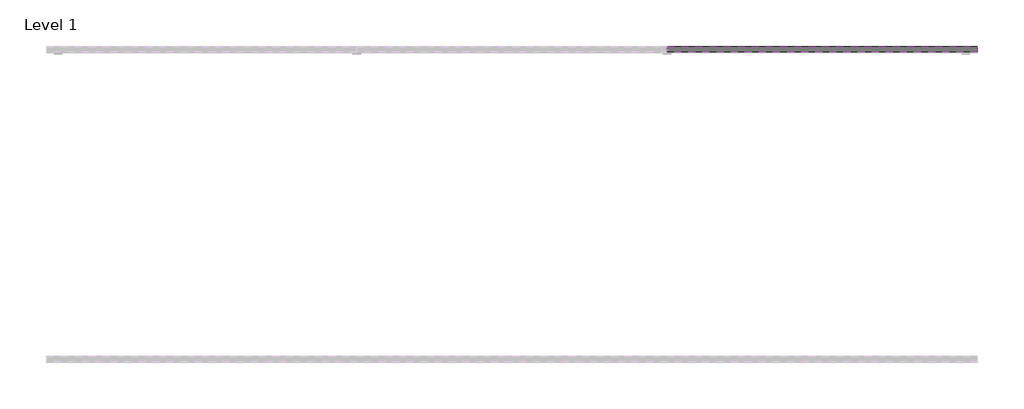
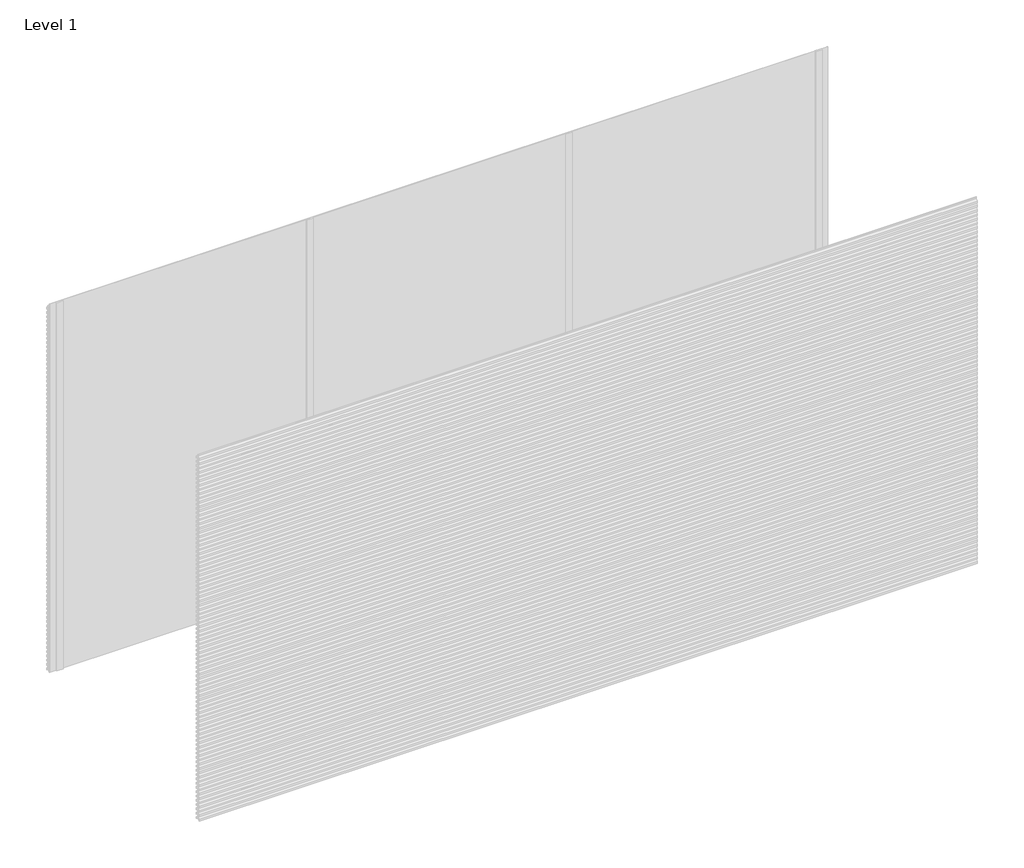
# One storey, part 17 of 17: 88 proxies.
"""IFC4 building model written with IfcOpenShell, lengths in millimetres."""

import ifcopenshell
import ifcopenshell.guid

model = None  # the IFC model being written
_history = None  # IfcOwnerHistory: only IFC2X3 demands one
_inside = {}  # id of a spatial element -> (the spatial element, [elements in it])
_under = {}  # id of a project, library or spatial element -> (it, [spatial elements below it])
_declared = {}  # id of a project -> (the project, [libraries it declares])
_typed = {}  # id of a type object -> (the type object, [elements of that type])
_made_of = {}  # id of a material, layer set ... -> (it, [elements and type objects made of it])


def new_model(schema):
    """Start an empty IFC model of exactly this schema.

    Asked for "IFC4X3", IfcOpenShell would pick the latest addendum, in which some entities
    have other attributes; the version numbers below select the first issue.
    IFC2X3 requires an IfcOwnerHistory on every rooted entity: one is made here for all.
    """
    global model, _history
    if schema == "IFC4X3":
        model = ifcopenshell.file(schema_version=(4, 3, 0, 0))
    else:
        model = ifcopenshell.file(schema=schema)
    _inside.clear()
    _under.clear()
    _declared.clear()
    _typed.clear()
    _made_of.clear()
    _history = None
    if model.schema == "IFC2X3":
        org = make("IfcOrganization", Name="unknown")
        user = make(
            "IfcPersonAndOrganization",
            ThePerson=make("IfcPerson", FamilyName="unknown"),
            TheOrganization=org,
        )
        app = make(
            "IfcApplication",
            ApplicationDeveloper=org,
            Version="unknown",
            ApplicationFullName="unknown",
            ApplicationIdentifier="unknown",
        )
        _history = make(
            "IfcOwnerHistory",
            OwningUser=user,
            OwningApplication=app,
            ChangeAction="ADDED",
            CreationDate=0,
        )
    return model


def make(cls, **values):
    """One entity of the class cls with the attributes given. An attribute that is None is left unset."""
    return model.create_entity(
        cls, **{name: value for name, value in values.items() if value is not None}
    )


def rooted(cls, **values):
    """An entity with a GlobalId (a new one), such as an element, a storey or a relation."""
    return make(cls, GlobalId=ifcopenshell.guid.new(), OwnerHistory=_history, **values)


def si_unit(unit_type, name, prefix=None):
    """IfcSIUnit, for example si_unit("LENGTHUNIT", "METRE", prefix="MILLI")."""
    return make("IfcSIUnit", UnitType=unit_type, Prefix=prefix, Name=name)


def assignment(units):
    """IfcUnitAssignment: the units of a project."""
    return None if units is None else make("IfcUnitAssignment", Units=units)


def point(xyz):
    """IfcCartesianPoint."""
    return None if xyz is None else make("IfcCartesianPoint", Coordinates=xyz)


def direction(xyz):
    """IfcDirection."""
    return None if xyz is None else make("IfcDirection", DirectionRatios=xyz)


def frame(location, z_axis=None, x_axis=None):
    """IfcAxis2Placement3D, a coordinate frame: its origin and axes. An axis left out is left unset."""
    return make(
        "IfcAxis2Placement3D",
        Location=point(location),
        Axis=direction(z_axis),
        RefDirection=direction(x_axis),
    )


def origin():
    """The frame at (0, 0, 0) with its axes left unset."""
    return frame((0.0, 0.0, 0.0))


def place(relative_to, where):
    """IfcLocalPlacement: puts the frame where relative to a parent placement (None: the world)."""
    return make(
        "IfcLocalPlacement", PlacementRelTo=relative_to, RelativePlacement=where
    )


def context(
    kind, dimensions, precision=None, world=None, true_north=None, identifier=None
):
    """IfcGeometricRepresentationContext, for example the 3D "Model" context."""
    return make(
        "IfcGeometricRepresentationContext",
        ContextIdentifier=identifier,
        ContextType=kind,
        CoordinateSpaceDimension=dimensions,
        Precision=precision,
        WorldCoordinateSystem=world,
        TrueNorth=true_north,
    )


def project(units=None, contexts=None):
    """IfcProject with its units and contexts."""
    return rooted(
        "IfcProject",
        Name="project",
        RepresentationContexts=contexts,
        UnitsInContext=assignment(units),
    )


def spatial(cls, under=None, at=None, **own):
    """A site, building, storey or space (cls), placed at a placement, below another one or the project."""
    s = rooted(cls, ObjectPlacement=at, **own)
    if under is not None:
        _under.setdefault(under.id(), (under, []))[1].append(s)
    return s


def polyline(points):
    """IfcPolyline through the points."""
    return make("IfcPolyline", Points=[point(p) for p in points])


def outline(outer, holes=None, kind="AREA"):
    """IfcArbitraryClosedProfileDef: a profile drawn as a closed curve; with holes, ...WithVoids."""
    if holes is None:
        return make("IfcArbitraryClosedProfileDef", ProfileType=kind, OuterCurve=outer)
    return make(
        "IfcArbitraryProfileDefWithVoids",
        ProfileType=kind,
        OuterCurve=outer,
        InnerCurves=holes,
    )


def extrude(swept, where, along, depth):
    """IfcExtrudedAreaSolid: the profile swept, set in the frame where, extruded along a direction by depth."""
    return make(
        "IfcExtrudedAreaSolid",
        SweptArea=swept,
        Position=where,
        ExtrudedDirection=direction(along),
        Depth=depth,
    )


def shape(context_of_items, identifier, shape_type, items):
    """IfcShapeRepresentation: the items that make up one representation, for example the "Body"."""
    return make(
        "IfcShapeRepresentation",
        ContextOfItems=context_of_items,
        RepresentationIdentifier=identifier,
        RepresentationType=shape_type,
        Items=items,
    )


def made_of(thing, what):
    """Note that an element or type object is made of a material, layer set ...; save() writes the relation."""
    if what is not None:
        _made_of.setdefault(what.id(), (what, []))[1].append(thing)
    return thing


def element(
    cls,
    number,
    at=None,
    inside=None,
    cuts=None,
    type_object=None,
    material=None,
    context=None,
    identifier="Body",
    shape_type=None,
    held_by="IfcProductDefinitionShape",
    body=None,
    shapes=None,
    **own,
):
    """One element of the class cls, such as IfcWall. Its Tag is "e" and its number.

    at: its placement. inside: the storey or other place that contains it. cuts: it is an
    opening in that element (IfcRelVoidsElement). A single representation is given by context,
    identifier, shape_type and body (its items); several are given by shapes. held_by: the class
    of the entity that holds the representations. save() writes the other relations.
    """
    e = rooted(cls, Tag="e%d" % number, ObjectPlacement=at, **own)
    if body is not None:
        shapes = [shape(context, identifier, shape_type, body)]
    if shapes is not None:
        e.Representation = make(held_by, Representations=shapes)
    if inside is not None:
        _inside.setdefault(inside.id(), (inside, []))[1].append(e)
    if cuts is not None:
        rooted(
            "IfcRelVoidsElement", RelatingBuildingElement=cuts, RelatedOpeningElement=e
        )
    if type_object is not None:
        _typed.setdefault(type_object.id(), (type_object, []))[1].append(e)
    return made_of(e, material)


def aggregate(whole, parts):
    """IfcRelAggregates: a whole, such as a stair, and the parts it consists of."""
    return rooted("IfcRelAggregates", RelatingObject=whole, RelatedObjects=parts)


def save(model, path):
    """Write the relations noted so far, then the file.

    IfcRelAggregates (storeys below a building ...), IfcRelContainedInSpatialStructure (elements
    in a storey), IfcRelDefinesByType, IfcRelAssociatesMaterial and IfcRelDeclares: one each for
    every whole, place, type object, material and project.
    """
    for whole, parts in _under.values():
        aggregate(whole, parts)
    for where, things in _inside.values():
        rooted(
            "IfcRelContainedInSpatialStructure",
            RelatedElements=things,
            RelatingStructure=where,
        )
    for kind, things in _typed.values():
        rooted("IfcRelDefinesByType", RelatedObjects=things, RelatingType=kind)
    for what, things in _made_of.values():
        rooted("IfcRelAssociatesMaterial", RelatedObjects=things, RelatingMaterial=what)
    for by, libraries in _declared.values():
        rooted("IfcRelDeclares", RelatingContext=by, RelatedDefinitions=libraries)
    model.write(path)


model = new_model("IFC4")

# Units and contexts
model_context = context("Model", 3, world=origin())
ifc_project = project(units=[si_unit("LENGTHUNIT", "METRE", prefix="MILLI")], contexts=[model_context])

# Site, building, storey
site = spatial("IfcSite", under=ifc_project)
building = spatial("IfcBuilding", under=site)
storey = spatial("IfcBuildingStorey", under=building, Name="Level 1", Elevation=0.0)

# Proxies
placement = place(None, origin())
element("IfcBuildingElementProxy", 1, Name="Wall Sweeps", at=placement, inside=storey, context=model_context, shape_type="SweptSolid", body=[
    extrude(outline(polyline([(39.0, 81.5), (39.0, 66.5), (21.0, 78.6411533), (3.0, 66.5), (3.0, 81.5), (20.0, 92.9666448), (20.0, 105.0), (22.0, 105.0), (22.0, 92.9666448), (39.0, 81.5)])), frame((2000.0, 0.0, 0.0), z_axis=(1.0, 0.0, 0.0), x_axis=(0.0, 1.0, 0.0)), (0.0, 0.0, 1.0), 2000.0),
])
element("IfcBuildingElementProxy", 2, Name="Wall Sweeps", at=placement, inside=storey, context=model_context, shape_type="SweptSolid", body=[
    extrude(outline(polyline([(39.0, 46.5), (39.0, 31.5), (21.0, 43.6411533), (3.0, 31.5), (3.0, 46.5), (20.0, 57.9666448), (20.0, 70.0), (22.0, 70.0), (22.0, 57.9666448), (39.0, 46.5)])), frame((2000.0, 0.0, 0.0), z_axis=(1.0, 0.0, 0.0), x_axis=(0.0, 1.0, 0.0)), (0.0, 0.0, 1.0), 2000.0),
])
element("IfcBuildingElementProxy", 3, Name="Wall Sweeps", at=placement, inside=storey, context=model_context, shape_type="SweptSolid", body=[
    extrude(outline(polyline([(39.0, 11.5), (39.0, -3.5), (21.0, 8.6411533), (3.0, -3.5), (3.0, 11.5), (20.0, 22.9666448), (20.0, 35.0), (22.0, 35.0), (22.0, 22.9666448), (39.0, 11.5)])), frame((2000.0, 0.0, 0.0), z_axis=(1.0, 0.0, 0.0), x_axis=(0.0, 1.0, 0.0)), (0.0, 0.0, 1.0), 2000.0),
])
element("IfcBuildingElementProxy", 4, Name="Wall Sweeps", at=placement, inside=storey, context=model_context, shape_type="SweptSolid", body=[
    extrude(outline(polyline([(39.0, 2951.5), (39.0, 2936.5), (21.0, 2948.6411533), (3.0, 2936.5), (3.0, 2951.5), (20.0, 2962.9666448), (20.0, 2975.0), (22.0, 2975.0), (22.0, 2962.9666448), (39.0, 2951.5)])), frame((4000.0, 0.0, 0.0), z_axis=(1.0, 0.0, 0.0), x_axis=(0.0, 1.0, 0.0)), (0.0, 0.0, 1.0), 2000.0),
])
element("IfcBuildingElementProxy", 5, Name="Wall Sweeps", at=placement, inside=storey, context=model_context, shape_type="SweptSolid", body=[
    extrude(outline(polyline([(39.0, 2916.5), (39.0, 2901.5), (21.0, 2913.6411533), (3.0, 2901.5), (3.0, 2916.5), (20.0, 2927.9666448), (20.0, 2940.0), (22.0, 2940.0), (22.0, 2927.9666448), (39.0, 2916.5)])), frame((4000.0, 0.0, 0.0), z_axis=(1.0, 0.0, 0.0), x_axis=(0.0, 1.0, 0.0)), (0.0, 0.0, 1.0), 2000.0),
])
element("IfcBuildingElementProxy", 6, Name="Wall Sweeps", at=placement, inside=storey, context=model_context, shape_type="SweptSolid", body=[
    extrude(outline(polyline([(39.0, 2881.5), (39.0, 2866.5), (21.0, 2878.6411533), (3.0, 2866.5), (3.0, 2881.5), (20.0, 2892.9666448), (20.0, 2905.0), (22.0, 2905.0), (22.0, 2892.9666448), (39.0, 2881.5)])), frame((4000.0, 0.0, 0.0), z_axis=(1.0, 0.0, 0.0), x_axis=(0.0, 1.0, 0.0)), (0.0, 0.0, 1.0), 2000.0),
])
element("IfcBuildingElementProxy", 7, Name="Wall Sweeps", at=placement, inside=storey, context=model_context, shape_type="SweptSolid", body=[
    extrude(outline(polyline([(39.0, 2846.5), (39.0, 2831.5), (21.0, 2843.6411533), (3.0, 2831.5), (3.0, 2846.5), (20.0, 2857.9666448), (20.0, 2870.0), (22.0, 2870.0), (22.0, 2857.9666448), (39.0, 2846.5)])), frame((4000.0, 0.0, 0.0), z_axis=(1.0, 0.0, 0.0), x_axis=(0.0, 1.0, 0.0)), (0.0, 0.0, 1.0), 2000.0),
])
element("IfcBuildingElementProxy", 8, Name="Wall Sweeps", at=placement, inside=storey, context=model_context, shape_type="SweptSolid", body=[
    extrude(outline(polyline([(39.0, 2811.5), (39.0, 2796.5), (21.0, 2808.6411533), (3.0, 2796.5), (3.0, 2811.5), (20.0, 2822.9666448), (20.0, 2835.0), (22.0, 2835.0), (22.0, 2822.9666448), (39.0, 2811.5)])), frame((4000.0, 0.0, 0.0), z_axis=(1.0, 0.0, 0.0), x_axis=(0.0, 1.0, 0.0)), (0.0, 0.0, 1.0), 2000.0),
])
element("IfcBuildingElementProxy", 9, Name="Wall Sweeps", at=placement, inside=storey, context=model_context, shape_type="SweptSolid", body=[
    extrude(outline(polyline([(39.0, 2776.5), (39.0, 2761.5), (21.0, 2773.6411533), (3.0, 2761.5), (3.0, 2776.5), (20.0, 2787.9666448), (20.0, 2800.0), (22.0, 2800.0), (22.0, 2787.9666448), (39.0, 2776.5)])), frame((4000.0, 0.0, 0.0), z_axis=(1.0, 0.0, 0.0), x_axis=(0.0, 1.0, 0.0)), (0.0, 0.0, 1.0), 2000.0),
])
element("IfcBuildingElementProxy", 10, Name="Wall Sweeps", at=placement, inside=storey, context=model_context, shape_type="SweptSolid", body=[
    extrude(outline(polyline([(39.0, 2741.5), (39.0, 2726.5), (21.0, 2738.6411533), (3.0, 2726.5), (3.0, 2741.5), (20.0, 2752.9666448), (20.0, 2765.0), (22.0, 2765.0), (22.0, 2752.9666448), (39.0, 2741.5)])), frame((4000.0, 0.0, 0.0), z_axis=(1.0, 0.0, 0.0), x_axis=(0.0, 1.0, 0.0)), (0.0, 0.0, 1.0), 2000.0),
])
element("IfcBuildingElementProxy", 11, Name="Wall Sweeps", at=placement, inside=storey, context=model_context, shape_type="SweptSolid", body=[
    extrude(outline(polyline([(39.0, 2706.5), (39.0, 2691.5), (21.0, 2703.6411533), (3.0, 2691.5), (3.0, 2706.5), (20.0, 2717.9666448), (20.0, 2730.0), (22.0, 2730.0), (22.0, 2717.9666448), (39.0, 2706.5)])), frame((4000.0, 0.0, 0.0), z_axis=(1.0, 0.0, 0.0), x_axis=(0.0, 1.0, 0.0)), (0.0, 0.0, 1.0), 2000.0),
])
element("IfcBuildingElementProxy", 12, Name="Wall Sweeps", at=placement, inside=storey, context=model_context, shape_type="SweptSolid", body=[
    extrude(outline(polyline([(39.0, 2671.5), (39.0, 2656.5), (21.0, 2668.6411533), (3.0, 2656.5), (3.0, 2671.5), (20.0, 2682.9666448), (20.0, 2695.0), (22.0, 2695.0), (22.0, 2682.9666448), (39.0, 2671.5)])), frame((4000.0, 0.0, 0.0), z_axis=(1.0, 0.0, 0.0), x_axis=(0.0, 1.0, 0.0)), (0.0, 0.0, 1.0), 2000.0),
])
element("IfcBuildingElementProxy", 13, Name="Wall Sweeps", at=placement, inside=storey, context=model_context, shape_type="SweptSolid", body=[
    extrude(outline(polyline([(39.0, 2636.5), (39.0, 2621.5), (21.0, 2633.6411533), (3.0, 2621.5), (3.0, 2636.5), (20.0, 2647.9666448), (20.0, 2660.0), (22.0, 2660.0), (22.0, 2647.9666448), (39.0, 2636.5)])), frame((4000.0, 0.0, 0.0), z_axis=(1.0, 0.0, 0.0), x_axis=(0.0, 1.0, 0.0)), (0.0, 0.0, 1.0), 2000.0),
])
element("IfcBuildingElementProxy", 14, Name="Wall Sweeps", at=placement, inside=storey, context=model_context, shape_type="SweptSolid", body=[
    extrude(outline(polyline([(39.0, 2601.5), (39.0, 2586.5), (21.0, 2598.6411533), (3.0, 2586.5), (3.0, 2601.5), (20.0, 2612.9666448), (20.0, 2625.0), (22.0, 2625.0), (22.0, 2612.9666448), (39.0, 2601.5)])), frame((4000.0, 0.0, 0.0), z_axis=(1.0, 0.0, 0.0), x_axis=(0.0, 1.0, 0.0)), (0.0, 0.0, 1.0), 2000.0),
])
element("IfcBuildingElementProxy", 15, Name="Wall Sweeps", at=placement, inside=storey, context=model_context, shape_type="SweptSolid", body=[
    extrude(outline(polyline([(39.0, 2566.5), (39.0, 2551.5), (21.0, 2563.6411533), (3.0, 2551.5), (3.0, 2566.5), (20.0, 2577.9666448), (20.0, 2590.0), (22.0, 2590.0), (22.0, 2577.9666448), (39.0, 2566.5)])), frame((4000.0, 0.0, 0.0), z_axis=(1.0, 0.0, 0.0), x_axis=(0.0, 1.0, 0.0)), (0.0, 0.0, 1.0), 2000.0),
])
element("IfcBuildingElementProxy", 16, Name="Wall Sweeps", at=placement, inside=storey, context=model_context, shape_type="SweptSolid", body=[
    extrude(outline(polyline([(39.0, 2531.5), (39.0, 2516.5), (21.0, 2528.6411533), (3.0, 2516.5), (3.0, 2531.5), (20.0, 2542.9666448), (20.0, 2555.0), (22.0, 2555.0), (22.0, 2542.9666448), (39.0, 2531.5)])), frame((4000.0, 0.0, 0.0), z_axis=(1.0, 0.0, 0.0), x_axis=(0.0, 1.0, 0.0)), (0.0, 0.0, 1.0), 2000.0),
])
element("IfcBuildingElementProxy", 17, Name="Wall Sweeps", at=placement, inside=storey, context=model_context, shape_type="SweptSolid", body=[
    extrude(outline(polyline([(39.0, 2496.5), (39.0, 2481.5), (21.0, 2493.6411533), (3.0, 2481.5), (3.0, 2496.5), (20.0, 2507.9666448), (20.0, 2520.0), (22.0, 2520.0), (22.0, 2507.9666448), (39.0, 2496.5)])), frame((4000.0, 0.0, 0.0), z_axis=(1.0, 0.0, 0.0), x_axis=(0.0, 1.0, 0.0)), (0.0, 0.0, 1.0), 2000.0),
])
element("IfcBuildingElementProxy", 18, Name="Wall Sweeps", at=placement, inside=storey, context=model_context, shape_type="SweptSolid", body=[
    extrude(outline(polyline([(39.0, 2461.5), (39.0, 2446.5), (21.0, 2458.6411533), (3.0, 2446.5), (3.0, 2461.5), (20.0, 2472.9666448), (20.0, 2485.0), (22.0, 2485.0), (22.0, 2472.9666448), (39.0, 2461.5)])), frame((4000.0, 0.0, 0.0), z_axis=(1.0, 0.0, 0.0), x_axis=(0.0, 1.0, 0.0)), (0.0, 0.0, 1.0), 2000.0),
])
element("IfcBuildingElementProxy", 19, Name="Wall Sweeps", at=placement, inside=storey, context=model_context, shape_type="SweptSolid", body=[
    extrude(outline(polyline([(39.0, 2426.5), (39.0, 2411.5), (21.0, 2423.6411533), (3.0, 2411.5), (3.0, 2426.5), (20.0, 2437.9666448), (20.0, 2450.0), (22.0, 2450.0), (22.0, 2437.9666448), (39.0, 2426.5)])), frame((4000.0, 0.0, 0.0), z_axis=(1.0, 0.0, 0.0), x_axis=(0.0, 1.0, 0.0)), (0.0, 0.0, 1.0), 2000.0),
])
element("IfcBuildingElementProxy", 20, Name="Wall Sweeps", at=placement, inside=storey, context=model_context, shape_type="SweptSolid", body=[
    extrude(outline(polyline([(39.0, 2391.5), (39.0, 2376.5), (21.0, 2388.6411533), (3.0, 2376.5), (3.0, 2391.5), (20.0, 2402.9666448), (20.0, 2415.0), (22.0, 2415.0), (22.0, 2402.9666448), (39.0, 2391.5)])), frame((4000.0, 0.0, 0.0), z_axis=(1.0, 0.0, 0.0), x_axis=(0.0, 1.0, 0.0)), (0.0, 0.0, 1.0), 2000.0),
])
element("IfcBuildingElementProxy", 21, Name="Wall Sweeps", at=placement, inside=storey, context=model_context, shape_type="SweptSolid", body=[
    extrude(outline(polyline([(39.0, 2356.5), (39.0, 2341.5), (21.0, 2353.6411533), (3.0, 2341.5), (3.0, 2356.5), (20.0, 2367.9666448), (20.0, 2380.0), (22.0, 2380.0), (22.0, 2367.9666448), (39.0, 2356.5)])), frame((4000.0, 0.0, 0.0), z_axis=(1.0, 0.0, 0.0), x_axis=(0.0, 1.0, 0.0)), (0.0, 0.0, 1.0), 2000.0),
])
element("IfcBuildingElementProxy", 22, Name="Wall Sweeps", at=placement, inside=storey, context=model_context, shape_type="SweptSolid", body=[
    extrude(outline(polyline([(39.0, 2321.5), (39.0, 2306.5), (21.0, 2318.6411533), (3.0, 2306.5), (3.0, 2321.5), (20.0, 2332.9666448), (20.0, 2345.0), (22.0, 2345.0), (22.0, 2332.9666448), (39.0, 2321.5)])), frame((4000.0, 0.0, 0.0), z_axis=(1.0, 0.0, 0.0), x_axis=(0.0, 1.0, 0.0)), (0.0, 0.0, 1.0), 2000.0),
])
element("IfcBuildingElementProxy", 23, Name="Wall Sweeps", at=placement, inside=storey, context=model_context, shape_type="SweptSolid", body=[
    extrude(outline(polyline([(39.0, 2286.5), (39.0, 2271.5), (21.0, 2283.6411533), (3.0, 2271.5), (3.0, 2286.5), (20.0, 2297.9666448), (20.0, 2310.0), (22.0, 2310.0), (22.0, 2297.9666448), (39.0, 2286.5)])), frame((4000.0, 0.0, 0.0), z_axis=(1.0, 0.0, 0.0), x_axis=(0.0, 1.0, 0.0)), (0.0, 0.0, 1.0), 2000.0),
])
element("IfcBuildingElementProxy", 24, Name="Wall Sweeps", at=placement, inside=storey, context=model_context, shape_type="SweptSolid", body=[
    extrude(outline(polyline([(39.0, 2251.5), (39.0, 2236.5), (21.0, 2248.6411533), (3.0, 2236.5), (3.0, 2251.5), (20.0, 2262.9666448), (20.0, 2275.0), (22.0, 2275.0), (22.0, 2262.9666448), (39.0, 2251.5)])), frame((4000.0, 0.0, 0.0), z_axis=(1.0, 0.0, 0.0), x_axis=(0.0, 1.0, 0.0)), (0.0, 0.0, 1.0), 2000.0),
])
element("IfcBuildingElementProxy", 25, Name="Wall Sweeps", at=placement, inside=storey, context=model_context, shape_type="SweptSolid", body=[
    extrude(outline(polyline([(39.0, 2216.5), (39.0, 2201.5), (21.0, 2213.6411533), (3.0, 2201.5), (3.0, 2216.5), (20.0, 2227.9666448), (20.0, 2240.0), (22.0, 2240.0), (22.0, 2227.9666448), (39.0, 2216.5)])), frame((4000.0, 0.0, 0.0), z_axis=(1.0, 0.0, 0.0), x_axis=(0.0, 1.0, 0.0)), (0.0, 0.0, 1.0), 2000.0),
])
element("IfcBuildingElementProxy", 26, Name="Wall Sweeps", at=placement, inside=storey, context=model_context, shape_type="SweptSolid", body=[
    extrude(outline(polyline([(39.0, 2181.5), (39.0, 2166.5), (21.0, 2178.6411533), (3.0, 2166.5), (3.0, 2181.5), (20.0, 2192.9666448), (20.0, 2205.0), (22.0, 2205.0), (22.0, 2192.9666448), (39.0, 2181.5)])), frame((4000.0, 0.0, 0.0), z_axis=(1.0, 0.0, 0.0), x_axis=(0.0, 1.0, 0.0)), (0.0, 0.0, 1.0), 2000.0),
])
element("IfcBuildingElementProxy", 27, Name="Wall Sweeps", at=placement, inside=storey, context=model_context, shape_type="SweptSolid", body=[
    extrude(outline(polyline([(39.0, 2146.5), (39.0, 2131.5), (21.0, 2143.6411533), (3.0, 2131.5), (3.0, 2146.5), (20.0, 2157.9666448), (20.0, 2170.0), (22.0, 2170.0), (22.0, 2157.9666448), (39.0, 2146.5)])), frame((4000.0, 0.0, 0.0), z_axis=(1.0, 0.0, 0.0), x_axis=(0.0, 1.0, 0.0)), (0.0, 0.0, 1.0), 2000.0),
])
element("IfcBuildingElementProxy", 28, Name="Wall Sweeps", at=placement, inside=storey, context=model_context, shape_type="SweptSolid", body=[
    extrude(outline(polyline([(39.0, 2111.5), (39.0, 2096.5), (21.0, 2108.6411533), (3.0, 2096.5), (3.0, 2111.5), (20.0, 2122.9666448), (20.0, 2135.0), (22.0, 2135.0), (22.0, 2122.9666448), (39.0, 2111.5)])), frame((4000.0, 0.0, 0.0), z_axis=(1.0, 0.0, 0.0), x_axis=(0.0, 1.0, 0.0)), (0.0, 0.0, 1.0), 2000.0),
])
element("IfcBuildingElementProxy", 29, Name="Wall Sweeps", at=placement, inside=storey, context=model_context, shape_type="SweptSolid", body=[
    extrude(outline(polyline([(39.0, 2076.5), (39.0, 2061.5), (21.0, 2073.6411533), (3.0, 2061.5), (3.0, 2076.5), (20.0, 2087.9666448), (20.0, 2100.0), (22.0, 2100.0), (22.0, 2087.9666448), (39.0, 2076.5)])), frame((4000.0, 0.0, 0.0), z_axis=(1.0, 0.0, 0.0), x_axis=(0.0, 1.0, 0.0)), (0.0, 0.0, 1.0), 2000.0),
])
element("IfcBuildingElementProxy", 30, Name="Wall Sweeps", at=placement, inside=storey, context=model_context, shape_type="SweptSolid", body=[
    extrude(outline(polyline([(39.0, 2041.5), (39.0, 2026.5), (21.0, 2038.6411533), (3.0, 2026.5), (3.0, 2041.5), (20.0, 2052.9666448), (20.0, 2065.0), (22.0, 2065.0), (22.0, 2052.9666448), (39.0, 2041.5)])), frame((4000.0, 0.0, 0.0), z_axis=(1.0, 0.0, 0.0), x_axis=(0.0, 1.0, 0.0)), (0.0, 0.0, 1.0), 2000.0),
])
element("IfcBuildingElementProxy", 31, Name="Wall Sweeps", at=placement, inside=storey, context=model_context, shape_type="SweptSolid", body=[
    extrude(outline(polyline([(39.0, 2006.5), (39.0, 1991.5), (21.0, 2003.6411533), (3.0, 1991.5), (3.0, 2006.5), (20.0, 2017.9666448), (20.0, 2030.0), (22.0, 2030.0), (22.0, 2017.9666448), (39.0, 2006.5)])), frame((4000.0, 0.0, 0.0), z_axis=(1.0, 0.0, 0.0), x_axis=(0.0, 1.0, 0.0)), (0.0, 0.0, 1.0), 2000.0),
])
element("IfcBuildingElementProxy", 32, Name="Wall Sweeps", at=placement, inside=storey, context=model_context, shape_type="SweptSolid", body=[
    extrude(outline(polyline([(39.0, 1971.5), (39.0, 1956.5), (21.0, 1968.6411533), (3.0, 1956.5), (3.0, 1971.5), (20.0, 1982.9666448), (20.0, 1995.0), (22.0, 1995.0), (22.0, 1982.9666448), (39.0, 1971.5)])), frame((4000.0, 0.0, 0.0), z_axis=(1.0, 0.0, 0.0), x_axis=(0.0, 1.0, 0.0)), (0.0, 0.0, 1.0), 2000.0),
])
element("IfcBuildingElementProxy", 33, Name="Wall Sweeps", at=placement, inside=storey, context=model_context, shape_type="SweptSolid", body=[
    extrude(outline(polyline([(39.0, 1936.5), (39.0, 1921.5), (21.0, 1933.6411533), (3.0, 1921.5), (3.0, 1936.5), (20.0, 1947.9666448), (20.0, 1960.0), (22.0, 1960.0), (22.0, 1947.9666448), (39.0, 1936.5)])), frame((4000.0, 0.0, 0.0), z_axis=(1.0, 0.0, 0.0), x_axis=(0.0, 1.0, 0.0)), (0.0, 0.0, 1.0), 2000.0),
])
element("IfcBuildingElementProxy", 34, Name="Wall Sweeps", at=placement, inside=storey, context=model_context, shape_type="SweptSolid", body=[
    extrude(outline(polyline([(39.0, 1901.5), (39.0, 1886.5), (21.0, 1898.6411533), (3.0, 1886.5), (3.0, 1901.5), (20.0, 1912.9666448), (20.0, 1925.0), (22.0, 1925.0), (22.0, 1912.9666448), (39.0, 1901.5)])), frame((4000.0, 0.0, 0.0), z_axis=(1.0, 0.0, 0.0), x_axis=(0.0, 1.0, 0.0)), (0.0, 0.0, 1.0), 2000.0),
])
element("IfcBuildingElementProxy", 35, Name="Wall Sweeps", at=placement, inside=storey, context=model_context, shape_type="SweptSolid", body=[
    extrude(outline(polyline([(39.0, 1866.5), (39.0, 1851.5), (21.0, 1863.6411533), (3.0, 1851.5), (3.0, 1866.5), (20.0, 1877.9666448), (20.0, 1890.0), (22.0, 1890.0), (22.0, 1877.9666448), (39.0, 1866.5)])), frame((4000.0, 0.0, 0.0), z_axis=(1.0, 0.0, 0.0), x_axis=(0.0, 1.0, 0.0)), (0.0, 0.0, 1.0), 2000.0),
])
element("IfcBuildingElementProxy", 36, Name="Wall Sweeps", at=placement, inside=storey, context=model_context, shape_type="SweptSolid", body=[
    extrude(outline(polyline([(39.0, 1831.5), (39.0, 1816.5), (21.0, 1828.6411533), (3.0, 1816.5), (3.0, 1831.5), (20.0, 1842.9666448), (20.0, 1855.0), (22.0, 1855.0), (22.0, 1842.9666448), (39.0, 1831.5)])), frame((4000.0, 0.0, 0.0), z_axis=(1.0, 0.0, 0.0), x_axis=(0.0, 1.0, 0.0)), (0.0, 0.0, 1.0), 2000.0),
])
element("IfcBuildingElementProxy", 37, Name="Wall Sweeps", at=placement, inside=storey, context=model_context, shape_type="SweptSolid", body=[
    extrude(outline(polyline([(39.0, 1796.5), (39.0, 1781.5), (21.0, 1793.6411533), (3.0, 1781.5), (3.0, 1796.5), (20.0, 1807.9666448), (20.0, 1820.0), (22.0, 1820.0), (22.0, 1807.9666448), (39.0, 1796.5)])), frame((4000.0, 0.0, 0.0), z_axis=(1.0, 0.0, 0.0), x_axis=(0.0, 1.0, 0.0)), (0.0, 0.0, 1.0), 2000.0),
])
element("IfcBuildingElementProxy", 38, Name="Wall Sweeps", at=placement, inside=storey, context=model_context, shape_type="SweptSolid", body=[
    extrude(outline(polyline([(39.0, 1761.5), (39.0, 1746.5), (21.0, 1758.6411533), (3.0, 1746.5), (3.0, 1761.5), (20.0, 1772.9666448), (20.0, 1785.0), (22.0, 1785.0), (22.0, 1772.9666448), (39.0, 1761.5)])), frame((4000.0, 0.0, 0.0), z_axis=(1.0, 0.0, 0.0), x_axis=(0.0, 1.0, 0.0)), (0.0, 0.0, 1.0), 2000.0),
])
element("IfcBuildingElementProxy", 39, Name="Wall Sweeps", at=placement, inside=storey, context=model_context, shape_type="SweptSolid", body=[
    extrude(outline(polyline([(39.0, 1726.5), (39.0, 1711.5), (21.0, 1723.6411533), (3.0, 1711.5), (3.0, 1726.5), (20.0, 1737.9666448), (20.0, 1750.0), (22.0, 1750.0), (22.0, 1737.9666448), (39.0, 1726.5)])), frame((4000.0, 0.0, 0.0), z_axis=(1.0, 0.0, 0.0), x_axis=(0.0, 1.0, 0.0)), (0.0, 0.0, 1.0), 2000.0),
])
element("IfcBuildingElementProxy", 40, Name="Wall Sweeps", at=placement, inside=storey, context=model_context, shape_type="SweptSolid", body=[
    extrude(outline(polyline([(39.0, 1691.5), (39.0, 1676.5), (21.0, 1688.6411533), (3.0, 1676.5), (3.0, 1691.5), (20.0, 1702.9666448), (20.0, 1715.0), (22.0, 1715.0), (22.0, 1702.9666448), (39.0, 1691.5)])), frame((4000.0, 0.0, 0.0), z_axis=(1.0, 0.0, 0.0), x_axis=(0.0, 1.0, 0.0)), (0.0, 0.0, 1.0), 2000.0),
])
element("IfcBuildingElementProxy", 41, Name="Wall Sweeps", at=placement, inside=storey, context=model_context, shape_type="SweptSolid", body=[
    extrude(outline(polyline([(39.0, 1656.5), (39.0, 1641.5), (21.0, 1653.6411533), (3.0, 1641.5), (3.0, 1656.5), (20.0, 1667.9666448), (20.0, 1680.0), (22.0, 1680.0), (22.0, 1667.9666448), (39.0, 1656.5)])), frame((4000.0, 0.0, 0.0), z_axis=(1.0, 0.0, 0.0), x_axis=(0.0, 1.0, 0.0)), (0.0, 0.0, 1.0), 2000.0),
])
element("IfcBuildingElementProxy", 42, Name="Wall Sweeps", at=placement, inside=storey, context=model_context, shape_type="SweptSolid", body=[
    extrude(outline(polyline([(39.0, 1621.5), (39.0, 1606.5), (21.0, 1618.6411533), (3.0, 1606.5), (3.0, 1621.5), (20.0, 1632.9666448), (20.0, 1645.0), (22.0, 1645.0), (22.0, 1632.9666448), (39.0, 1621.5)])), frame((4000.0, 0.0, 0.0), z_axis=(1.0, 0.0, 0.0), x_axis=(0.0, 1.0, 0.0)), (0.0, 0.0, 1.0), 2000.0),
])
element("IfcBuildingElementProxy", 43, Name="Wall Sweeps", at=placement, inside=storey, context=model_context, shape_type="SweptSolid", body=[
    extrude(outline(polyline([(39.0, 1586.5), (39.0, 1571.5), (21.0, 1583.6411533), (3.0, 1571.5), (3.0, 1586.5), (20.0, 1597.9666448), (20.0, 1610.0), (22.0, 1610.0), (22.0, 1597.9666448), (39.0, 1586.5)])), frame((4000.0, 0.0, 0.0), z_axis=(1.0, 0.0, 0.0), x_axis=(0.0, 1.0, 0.0)), (0.0, 0.0, 1.0), 2000.0),
])
element("IfcBuildingElementProxy", 44, Name="Wall Sweeps", at=placement, inside=storey, context=model_context, shape_type="SweptSolid", body=[
    extrude(outline(polyline([(39.0, 1551.5), (39.0, 1536.5), (21.0, 1548.6411533), (3.0, 1536.5), (3.0, 1551.5), (20.0, 1562.9666448), (20.0, 1575.0), (22.0, 1575.0), (22.0, 1562.9666448), (39.0, 1551.5)])), frame((4000.0, 0.0, 0.0), z_axis=(1.0, 0.0, 0.0), x_axis=(0.0, 1.0, 0.0)), (0.0, 0.0, 1.0), 2000.0),
])
element("IfcBuildingElementProxy", 45, Name="Wall Sweeps", at=placement, inside=storey, context=model_context, shape_type="SweptSolid", body=[
    extrude(outline(polyline([(39.0, 1516.5), (39.0, 1501.5), (21.0, 1513.6411533), (3.0, 1501.5), (3.0, 1516.5), (20.0, 1527.9666448), (20.0, 1540.0), (22.0, 1540.0), (22.0, 1527.9666448), (39.0, 1516.5)])), frame((4000.0, 0.0, 0.0), z_axis=(1.0, 0.0, 0.0), x_axis=(0.0, 1.0, 0.0)), (0.0, 0.0, 1.0), 2000.0),
])
element("IfcBuildingElementProxy", 46, Name="Wall Sweeps", at=placement, inside=storey, context=model_context, shape_type="SweptSolid", body=[
    extrude(outline(polyline([(39.0, 1481.5), (39.0, 1466.5), (21.0, 1478.6411533), (3.0, 1466.5), (3.0, 1481.5), (20.0, 1492.9666448), (20.0, 1505.0), (22.0, 1505.0), (22.0, 1492.9666448), (39.0, 1481.5)])), frame((4000.0, 0.0, 0.0), z_axis=(1.0, 0.0, 0.0), x_axis=(0.0, 1.0, 0.0)), (0.0, 0.0, 1.0), 2000.0),
])
element("IfcBuildingElementProxy", 47, Name="Wall Sweeps", at=placement, inside=storey, context=model_context, shape_type="SweptSolid", body=[
    extrude(outline(polyline([(39.0, 1446.5), (39.0, 1431.5), (21.0, 1443.6411533), (3.0, 1431.5), (3.0, 1446.5), (20.0, 1457.9666448), (20.0, 1470.0), (22.0, 1470.0), (22.0, 1457.9666448), (39.0, 1446.5)])), frame((4000.0, 0.0, 0.0), z_axis=(1.0, 0.0, 0.0), x_axis=(0.0, 1.0, 0.0)), (0.0, 0.0, 1.0), 2000.0),
])
element("IfcBuildingElementProxy", 48, Name="Wall Sweeps", at=placement, inside=storey, context=model_context, shape_type="SweptSolid", body=[
    extrude(outline(polyline([(39.0, 1411.5), (39.0, 1396.5), (21.0, 1408.6411533), (3.0, 1396.5), (3.0, 1411.5), (20.0, 1422.9666448), (20.0, 1435.0), (22.0, 1435.0), (22.0, 1422.9666448), (39.0, 1411.5)])), frame((4000.0, 0.0, 0.0), z_axis=(1.0, 0.0, 0.0), x_axis=(0.0, 1.0, 0.0)), (0.0, 0.0, 1.0), 2000.0),
])
element("IfcBuildingElementProxy", 49, Name="Wall Sweeps", at=placement, inside=storey, context=model_context, shape_type="SweptSolid", body=[
    extrude(outline(polyline([(39.0, 1376.5), (39.0, 1361.5), (21.0, 1373.6411533), (3.0, 1361.5), (3.0, 1376.5), (20.0, 1387.9666448), (20.0, 1400.0), (22.0, 1400.0), (22.0, 1387.9666448), (39.0, 1376.5)])), frame((4000.0, 0.0, 0.0), z_axis=(1.0, 0.0, 0.0), x_axis=(0.0, 1.0, 0.0)), (0.0, 0.0, 1.0), 2000.0),
])
element("IfcBuildingElementProxy", 50, Name="Wall Sweeps", at=placement, inside=storey, context=model_context, shape_type="SweptSolid", body=[
    extrude(outline(polyline([(39.0, 1341.5), (39.0, 1326.5), (21.0, 1338.6411533), (3.0, 1326.5), (3.0, 1341.5), (20.0, 1352.9666448), (20.0, 1365.0), (22.0, 1365.0), (22.0, 1352.9666448), (39.0, 1341.5)])), frame((4000.0, 0.0, 0.0), z_axis=(1.0, 0.0, 0.0), x_axis=(0.0, 1.0, 0.0)), (0.0, 0.0, 1.0), 2000.0),
])
element("IfcBuildingElementProxy", 51, Name="Wall Sweeps", at=placement, inside=storey, context=model_context, shape_type="SweptSolid", body=[
    extrude(outline(polyline([(39.0, 1306.5), (39.0, 1291.5), (21.0, 1303.6411533), (3.0, 1291.5), (3.0, 1306.5), (20.0, 1317.9666448), (20.0, 1330.0), (22.0, 1330.0), (22.0, 1317.9666448), (39.0, 1306.5)])), frame((4000.0, 0.0, 0.0), z_axis=(1.0, 0.0, 0.0), x_axis=(0.0, 1.0, 0.0)), (0.0, 0.0, 1.0), 2000.0),
])
element("IfcBuildingElementProxy", 52, Name="Wall Sweeps", at=placement, inside=storey, context=model_context, shape_type="SweptSolid", body=[
    extrude(outline(polyline([(39.0, 1271.5), (39.0, 1256.5), (21.0, 1268.6411533), (3.0, 1256.5), (3.0, 1271.5), (20.0, 1282.9666448), (20.0, 1295.0), (22.0, 1295.0), (22.0, 1282.9666448), (39.0, 1271.5)])), frame((4000.0, 0.0, 0.0), z_axis=(1.0, 0.0, 0.0), x_axis=(0.0, 1.0, 0.0)), (0.0, 0.0, 1.0), 2000.0),
])
element("IfcBuildingElementProxy", 53, Name="Wall Sweeps", at=placement, inside=storey, context=model_context, shape_type="SweptSolid", body=[
    extrude(outline(polyline([(39.0, 1236.5), (39.0, 1221.5), (21.0, 1233.6411533), (3.0, 1221.5), (3.0, 1236.5), (20.0, 1247.9666448), (20.0, 1260.0), (22.0, 1260.0), (22.0, 1247.9666448), (39.0, 1236.5)])), frame((4000.0, 0.0, 0.0), z_axis=(1.0, 0.0, 0.0), x_axis=(0.0, 1.0, 0.0)), (0.0, 0.0, 1.0), 2000.0),
])
element("IfcBuildingElementProxy", 54, Name="Wall Sweeps", at=placement, inside=storey, context=model_context, shape_type="SweptSolid", body=[
    extrude(outline(polyline([(39.0, 1201.5), (39.0, 1186.5), (21.0, 1198.6411533), (3.0, 1186.5), (3.0, 1201.5), (20.0, 1212.9666448), (20.0, 1225.0), (22.0, 1225.0), (22.0, 1212.9666448), (39.0, 1201.5)])), frame((4000.0, 0.0, 0.0), z_axis=(1.0, 0.0, 0.0), x_axis=(0.0, 1.0, 0.0)), (0.0, 0.0, 1.0), 2000.0),
])
element("IfcBuildingElementProxy", 55, Name="Wall Sweeps", at=placement, inside=storey, context=model_context, shape_type="SweptSolid", body=[
    extrude(outline(polyline([(39.0, 1166.5), (39.0, 1151.5), (21.0, 1163.6411533), (3.0, 1151.5), (3.0, 1166.5), (20.0, 1177.9666448), (20.0, 1190.0), (22.0, 1190.0), (22.0, 1177.9666448), (39.0, 1166.5)])), frame((4000.0, 0.0, 0.0), z_axis=(1.0, 0.0, 0.0), x_axis=(0.0, 1.0, 0.0)), (0.0, 0.0, 1.0), 2000.0),
])
element("IfcBuildingElementProxy", 56, Name="Wall Sweeps", at=placement, inside=storey, context=model_context, shape_type="SweptSolid", body=[
    extrude(outline(polyline([(39.0, 1131.5), (39.0, 1116.5), (21.0, 1128.6411533), (3.0, 1116.5), (3.0, 1131.5), (20.0, 1142.9666448), (20.0, 1155.0), (22.0, 1155.0), (22.0, 1142.9666448), (39.0, 1131.5)])), frame((4000.0, 0.0, 0.0), z_axis=(1.0, 0.0, 0.0), x_axis=(0.0, 1.0, 0.0)), (0.0, 0.0, 1.0), 2000.0),
])
element("IfcBuildingElementProxy", 57, Name="Wall Sweeps", at=placement, inside=storey, context=model_context, shape_type="SweptSolid", body=[
    extrude(outline(polyline([(39.0, 1096.5), (39.0, 1081.5), (21.0, 1093.6411533), (3.0, 1081.5), (3.0, 1096.5), (20.0, 1107.9666448), (20.0, 1120.0), (22.0, 1120.0), (22.0, 1107.9666448), (39.0, 1096.5)])), frame((4000.0, 0.0, 0.0), z_axis=(1.0, 0.0, 0.0), x_axis=(0.0, 1.0, 0.0)), (0.0, 0.0, 1.0), 2000.0),
])
element("IfcBuildingElementProxy", 58, Name="Wall Sweeps", at=placement, inside=storey, context=model_context, shape_type="SweptSolid", body=[
    extrude(outline(polyline([(39.0, 1061.5), (39.0, 1046.5), (21.0, 1058.6411533), (3.0, 1046.5), (3.0, 1061.5), (20.0, 1072.9666448), (20.0, 1085.0), (22.0, 1085.0), (22.0, 1072.9666448), (39.0, 1061.5)])), frame((4000.0, 0.0, 0.0), z_axis=(1.0, 0.0, 0.0), x_axis=(0.0, 1.0, 0.0)), (0.0, 0.0, 1.0), 2000.0),
])
element("IfcBuildingElementProxy", 59, Name="Wall Sweeps", at=placement, inside=storey, context=model_context, shape_type="SweptSolid", body=[
    extrude(outline(polyline([(39.0, 1026.5), (39.0, 1011.5), (21.0, 1023.6411533), (3.0, 1011.5), (3.0, 1026.5), (20.0, 1037.9666448), (20.0, 1050.0), (22.0, 1050.0), (22.0, 1037.9666448), (39.0, 1026.5)])), frame((4000.0, 0.0, 0.0), z_axis=(1.0, 0.0, 0.0), x_axis=(0.0, 1.0, 0.0)), (0.0, 0.0, 1.0), 2000.0),
])
element("IfcBuildingElementProxy", 60, Name="Wall Sweeps", at=placement, inside=storey, context=model_context, shape_type="SweptSolid", body=[
    extrude(outline(polyline([(39.0, 991.5), (39.0, 976.5), (21.0, 988.6411533), (3.0, 976.5), (3.0, 991.5), (20.0, 1002.9666448), (20.0, 1015.0), (22.0, 1015.0), (22.0, 1002.9666448), (39.0, 991.5)])), frame((4000.0, 0.0, 0.0), z_axis=(1.0, 0.0, 0.0), x_axis=(0.0, 1.0, 0.0)), (0.0, 0.0, 1.0), 2000.0),
])
element("IfcBuildingElementProxy", 61, Name="Wall Sweeps", at=placement, inside=storey, context=model_context, shape_type="SweptSolid", body=[
    extrude(outline(polyline([(39.0, 956.5), (39.0, 941.5), (21.0, 953.6411533), (3.0, 941.5), (3.0, 956.5), (20.0, 967.9666448), (20.0, 980.0), (22.0, 980.0), (22.0, 967.9666448), (39.0, 956.5)])), frame((4000.0, 0.0, 0.0), z_axis=(1.0, 0.0, 0.0), x_axis=(0.0, 1.0, 0.0)), (0.0, 0.0, 1.0), 2000.0),
])
element("IfcBuildingElementProxy", 62, Name="Wall Sweeps", at=placement, inside=storey, context=model_context, shape_type="SweptSolid", body=[
    extrude(outline(polyline([(39.0, 921.5), (39.0, 906.5), (21.0, 918.6411533), (3.0, 906.5), (3.0, 921.5), (20.0, 932.9666448), (20.0, 945.0), (22.0, 945.0), (22.0, 932.9666448), (39.0, 921.5)])), frame((4000.0, 0.0, 0.0), z_axis=(1.0, 0.0, 0.0), x_axis=(0.0, 1.0, 0.0)), (0.0, 0.0, 1.0), 2000.0),
])
element("IfcBuildingElementProxy", 63, Name="Wall Sweeps", at=placement, inside=storey, context=model_context, shape_type="SweptSolid", body=[
    extrude(outline(polyline([(39.0, 886.5), (39.0, 871.5), (21.0, 883.6411533), (3.0, 871.5), (3.0, 886.5), (20.0, 897.9666448), (20.0, 910.0), (22.0, 910.0), (22.0, 897.9666448), (39.0, 886.5)])), frame((4000.0, 0.0, 0.0), z_axis=(1.0, 0.0, 0.0), x_axis=(0.0, 1.0, 0.0)), (0.0, 0.0, 1.0), 2000.0),
])
element("IfcBuildingElementProxy", 64, Name="Wall Sweeps", at=placement, inside=storey, context=model_context, shape_type="SweptSolid", body=[
    extrude(outline(polyline([(39.0, 851.5), (39.0, 836.5), (21.0, 848.6411533), (3.0, 836.5), (3.0, 851.5), (20.0, 862.9666448), (20.0, 875.0), (22.0, 875.0), (22.0, 862.9666448), (39.0, 851.5)])), frame((4000.0, 0.0, 0.0), z_axis=(1.0, 0.0, 0.0), x_axis=(0.0, 1.0, 0.0)), (0.0, 0.0, 1.0), 2000.0),
])
element("IfcBuildingElementProxy", 65, Name="Wall Sweeps", at=placement, inside=storey, context=model_context, shape_type="SweptSolid", body=[
    extrude(outline(polyline([(39.0, 816.5), (39.0, 801.5), (21.0, 813.6411533), (3.0, 801.5), (3.0, 816.5), (20.0, 827.9666448), (20.0, 840.0), (22.0, 840.0), (22.0, 827.9666448), (39.0, 816.5)])), frame((4000.0, 0.0, 0.0), z_axis=(1.0, 0.0, 0.0), x_axis=(0.0, 1.0, 0.0)), (0.0, 0.0, 1.0), 2000.0),
])
element("IfcBuildingElementProxy", 66, Name="Wall Sweeps", at=placement, inside=storey, context=model_context, shape_type="SweptSolid", body=[
    extrude(outline(polyline([(39.0, 781.5), (39.0, 766.5), (21.0, 778.6411533), (3.0, 766.5), (3.0, 781.5), (20.0, 792.9666448), (20.0, 805.0), (22.0, 805.0), (22.0, 792.9666448), (39.0, 781.5)])), frame((4000.0, 0.0, 0.0), z_axis=(1.0, 0.0, 0.0), x_axis=(0.0, 1.0, 0.0)), (0.0, 0.0, 1.0), 2000.0),
])
element("IfcBuildingElementProxy", 67, Name="Wall Sweeps", at=placement, inside=storey, context=model_context, shape_type="SweptSolid", body=[
    extrude(outline(polyline([(39.0, 746.5), (39.0, 731.5), (21.0, 743.6411533), (3.0, 731.5), (3.0, 746.5), (20.0, 757.9666448), (20.0, 770.0), (22.0, 770.0), (22.0, 757.9666448), (39.0, 746.5)])), frame((4000.0, 0.0, 0.0), z_axis=(1.0, 0.0, 0.0), x_axis=(0.0, 1.0, 0.0)), (0.0, 0.0, 1.0), 2000.0),
])
element("IfcBuildingElementProxy", 68, Name="Wall Sweeps", at=placement, inside=storey, context=model_context, shape_type="SweptSolid", body=[
    extrude(outline(polyline([(39.0, 711.5), (39.0, 696.5), (21.0, 708.6411533), (3.0, 696.5), (3.0, 711.5), (20.0, 722.9666448), (20.0, 735.0), (22.0, 735.0), (22.0, 722.9666448), (39.0, 711.5)])), frame((4000.0, 0.0, 0.0), z_axis=(1.0, 0.0, 0.0), x_axis=(0.0, 1.0, 0.0)), (0.0, 0.0, 1.0), 2000.0),
])
element("IfcBuildingElementProxy", 69, Name="Wall Sweeps", at=placement, inside=storey, context=model_context, shape_type="SweptSolid", body=[
    extrude(outline(polyline([(39.0, 676.5), (39.0, 661.5), (21.0, 673.6411533), (3.0, 661.5), (3.0, 676.5), (20.0, 687.9666448), (20.0, 700.0), (22.0, 700.0), (22.0, 687.9666448), (39.0, 676.5)])), frame((4000.0, 0.0, 0.0), z_axis=(1.0, 0.0, 0.0), x_axis=(0.0, 1.0, 0.0)), (0.0, 0.0, 1.0), 2000.0),
])
element("IfcBuildingElementProxy", 70, Name="Wall Sweeps", at=placement, inside=storey, context=model_context, shape_type="SweptSolid", body=[
    extrude(outline(polyline([(39.0, 641.5), (39.0, 626.5), (21.0, 638.6411533), (3.0, 626.5), (3.0, 641.5), (20.0, 652.9666448), (20.0, 665.0), (22.0, 665.0), (22.0, 652.9666448), (39.0, 641.5)])), frame((4000.0, 0.0, 0.0), z_axis=(1.0, 0.0, 0.0), x_axis=(0.0, 1.0, 0.0)), (0.0, 0.0, 1.0), 2000.0),
])
element("IfcBuildingElementProxy", 71, Name="Wall Sweeps", at=placement, inside=storey, context=model_context, shape_type="SweptSolid", body=[
    extrude(outline(polyline([(39.0, 606.5), (39.0, 591.5), (21.0, 603.6411533), (3.0, 591.5), (3.0, 606.5), (20.0, 617.9666448), (20.0, 630.0), (22.0, 630.0), (22.0, 617.9666448), (39.0, 606.5)])), frame((4000.0, 0.0, 0.0), z_axis=(1.0, 0.0, 0.0), x_axis=(0.0, 1.0, 0.0)), (0.0, 0.0, 1.0), 2000.0),
])
element("IfcBuildingElementProxy", 72, Name="Wall Sweeps", at=placement, inside=storey, context=model_context, shape_type="SweptSolid", body=[
    extrude(outline(polyline([(39.0, 571.5), (39.0, 556.5), (21.0, 568.6411533), (3.0, 556.5), (3.0, 571.5), (20.0, 582.9666448), (20.0, 595.0), (22.0, 595.0), (22.0, 582.9666448), (39.0, 571.5)])), frame((4000.0, 0.0, 0.0), z_axis=(1.0, 0.0, 0.0), x_axis=(0.0, 1.0, 0.0)), (0.0, 0.0, 1.0), 2000.0),
])
element("IfcBuildingElementProxy", 73, Name="Wall Sweeps", at=placement, inside=storey, context=model_context, shape_type="SweptSolid", body=[
    extrude(outline(polyline([(39.0, 536.5), (39.0, 521.5), (21.0, 533.6411533), (3.0, 521.5), (3.0, 536.5), (20.0, 547.9666448), (20.0, 560.0), (22.0, 560.0), (22.0, 547.9666448), (39.0, 536.5)])), frame((4000.0, 0.0, 0.0), z_axis=(1.0, 0.0, 0.0), x_axis=(0.0, 1.0, 0.0)), (0.0, 0.0, 1.0), 2000.0),
])
element("IfcBuildingElementProxy", 74, Name="Wall Sweeps", at=placement, inside=storey, context=model_context, shape_type="SweptSolid", body=[
    extrude(outline(polyline([(39.0, 501.5), (39.0, 486.5), (21.0, 498.6411533), (3.0, 486.5), (3.0, 501.5), (20.0, 512.9666448), (20.0, 525.0), (22.0, 525.0), (22.0, 512.9666448), (39.0, 501.5)])), frame((4000.0, 0.0, 0.0), z_axis=(1.0, 0.0, 0.0), x_axis=(0.0, 1.0, 0.0)), (0.0, 0.0, 1.0), 2000.0),
])
element("IfcBuildingElementProxy", 75, Name="Wall Sweeps", at=placement, inside=storey, context=model_context, shape_type="SweptSolid", body=[
    extrude(outline(polyline([(39.0, 466.5), (39.0, 451.5), (21.0, 463.6411533), (3.0, 451.5), (3.0, 466.5), (20.0, 477.9666448), (20.0, 490.0), (22.0, 490.0), (22.0, 477.9666448), (39.0, 466.5)])), frame((4000.0, 0.0, 0.0), z_axis=(1.0, 0.0, 0.0), x_axis=(0.0, 1.0, 0.0)), (0.0, 0.0, 1.0), 2000.0),
])
element("IfcBuildingElementProxy", 76, Name="Wall Sweeps", at=placement, inside=storey, context=model_context, shape_type="SweptSolid", body=[
    extrude(outline(polyline([(39.0, 431.5), (39.0, 416.5), (21.0, 428.6411533), (3.0, 416.5), (3.0, 431.5), (20.0, 442.9666448), (20.0, 455.0), (22.0, 455.0), (22.0, 442.9666448), (39.0, 431.5)])), frame((4000.0, 0.0, 0.0), z_axis=(1.0, 0.0, 0.0), x_axis=(0.0, 1.0, 0.0)), (0.0, 0.0, 1.0), 2000.0),
])
element("IfcBuildingElementProxy", 77, Name="Wall Sweeps", at=placement, inside=storey, context=model_context, shape_type="SweptSolid", body=[
    extrude(outline(polyline([(39.0, 396.5), (39.0, 381.5), (21.0, 393.6411533), (3.0, 381.5), (3.0, 396.5), (20.0, 407.9666448), (20.0, 420.0), (22.0, 420.0), (22.0, 407.9666448), (39.0, 396.5)])), frame((4000.0, 0.0, 0.0), z_axis=(1.0, 0.0, 0.0), x_axis=(0.0, 1.0, 0.0)), (0.0, 0.0, 1.0), 2000.0),
])
element("IfcBuildingElementProxy", 78, Name="Wall Sweeps", at=placement, inside=storey, context=model_context, shape_type="SweptSolid", body=[
    extrude(outline(polyline([(39.0, 361.5), (39.0, 346.5), (21.0, 358.6411533), (3.0, 346.5), (3.0, 361.5), (20.0, 372.9666448), (20.0, 385.0), (22.0, 385.0), (22.0, 372.9666448), (39.0, 361.5)])), frame((4000.0, 0.0, 0.0), z_axis=(1.0, 0.0, 0.0), x_axis=(0.0, 1.0, 0.0)), (0.0, 0.0, 1.0), 2000.0),
])
element("IfcBuildingElementProxy", 79, Name="Wall Sweeps", at=placement, inside=storey, context=model_context, shape_type="SweptSolid", body=[
    extrude(outline(polyline([(39.0, 326.5), (39.0, 311.5), (21.0, 323.6411533), (3.0, 311.5), (3.0, 326.5), (20.0, 337.9666448), (20.0, 350.0), (22.0, 350.0), (22.0, 337.9666448), (39.0, 326.5)])), frame((4000.0, 0.0, 0.0), z_axis=(1.0, 0.0, 0.0), x_axis=(0.0, 1.0, 0.0)), (0.0, 0.0, 1.0), 2000.0),
])
element("IfcBuildingElementProxy", 80, Name="Wall Sweeps", at=placement, inside=storey, context=model_context, shape_type="SweptSolid", body=[
    extrude(outline(polyline([(39.0, 291.5), (39.0, 276.5), (21.0, 288.6411533), (3.0, 276.5), (3.0, 291.5), (20.0, 302.9666448), (20.0, 315.0), (22.0, 315.0), (22.0, 302.9666448), (39.0, 291.5)])), frame((4000.0, 0.0, 0.0), z_axis=(1.0, 0.0, 0.0), x_axis=(0.0, 1.0, 0.0)), (0.0, 0.0, 1.0), 2000.0),
])
element("IfcBuildingElementProxy", 81, Name="Wall Sweeps", at=placement, inside=storey, context=model_context, shape_type="SweptSolid", body=[
    extrude(outline(polyline([(39.0, 256.5), (39.0, 241.5), (21.0, 253.6411533), (3.0, 241.5), (3.0, 256.5), (20.0, 267.9666448), (20.0, 280.0), (22.0, 280.0), (22.0, 267.9666448), (39.0, 256.5)])), frame((4000.0, 0.0, 0.0), z_axis=(1.0, 0.0, 0.0), x_axis=(0.0, 1.0, 0.0)), (0.0, 0.0, 1.0), 2000.0),
])
element("IfcBuildingElementProxy", 82, Name="Wall Sweeps", at=placement, inside=storey, context=model_context, shape_type="SweptSolid", body=[
    extrude(outline(polyline([(39.0, 221.5), (39.0, 206.5), (21.0, 218.6411533), (3.0, 206.5), (3.0, 221.5), (20.0, 232.9666448), (20.0, 245.0), (22.0, 245.0), (22.0, 232.9666448), (39.0, 221.5)])), frame((4000.0, 0.0, 0.0), z_axis=(1.0, 0.0, 0.0), x_axis=(0.0, 1.0, 0.0)), (0.0, 0.0, 1.0), 2000.0),
])
element("IfcBuildingElementProxy", 83, Name="Wall Sweeps", at=placement, inside=storey, context=model_context, shape_type="SweptSolid", body=[
    extrude(outline(polyline([(39.0, 186.5), (39.0, 171.5), (21.0, 183.6411533), (3.0, 171.5), (3.0, 186.5), (20.0, 197.9666448), (20.0, 210.0), (22.0, 210.0), (22.0, 197.9666448), (39.0, 186.5)])), frame((4000.0, 0.0, 0.0), z_axis=(1.0, 0.0, 0.0), x_axis=(0.0, 1.0, 0.0)), (0.0, 0.0, 1.0), 2000.0),
])
element("IfcBuildingElementProxy", 84, Name="Wall Sweeps", at=placement, inside=storey, context=model_context, shape_type="SweptSolid", body=[
    extrude(outline(polyline([(39.0, 151.5), (39.0, 136.5), (21.0, 148.6411533), (3.0, 136.5), (3.0, 151.5), (20.0, 162.9666448), (20.0, 175.0), (22.0, 175.0), (22.0, 162.9666448), (39.0, 151.5)])), frame((4000.0, 0.0, 0.0), z_axis=(1.0, 0.0, 0.0), x_axis=(0.0, 1.0, 0.0)), (0.0, 0.0, 1.0), 2000.0),
])
element("IfcBuildingElementProxy", 85, Name="Wall Sweeps", at=placement, inside=storey, context=model_context, shape_type="SweptSolid", body=[
    extrude(outline(polyline([(39.0, 116.5), (39.0, 101.5), (21.0, 113.6411533), (3.0, 101.5), (3.0, 116.5), (20.0, 127.9666448), (20.0, 140.0), (22.0, 140.0), (22.0, 127.9666448), (39.0, 116.5)])), frame((4000.0, 0.0, 0.0), z_axis=(1.0, 0.0, 0.0), x_axis=(0.0, 1.0, 0.0)), (0.0, 0.0, 1.0), 2000.0),
])
element("IfcBuildingElementProxy", 86, Name="Wall Sweeps", at=placement, inside=storey, context=model_context, shape_type="SweptSolid", body=[
    extrude(outline(polyline([(39.0, 81.5), (39.0, 66.5), (21.0, 78.6411533), (3.0, 66.5), (3.0, 81.5), (20.0, 92.9666448), (20.0, 105.0), (22.0, 105.0), (22.0, 92.9666448), (39.0, 81.5)])), frame((4000.0, 0.0, 0.0), z_axis=(1.0, 0.0, 0.0), x_axis=(0.0, 1.0, 0.0)), (0.0, 0.0, 1.0), 2000.0),
])
element("IfcBuildingElementProxy", 87, Name="Wall Sweeps", at=placement, inside=storey, context=model_context, shape_type="SweptSolid", body=[
    extrude(outline(polyline([(39.0, 46.5), (39.0, 31.5), (21.0, 43.6411533), (3.0, 31.5), (3.0, 46.5), (20.0, 57.9666448), (20.0, 70.0), (22.0, 70.0), (22.0, 57.9666448), (39.0, 46.5)])), frame((4000.0, 0.0, 0.0), z_axis=(1.0, 0.0, 0.0), x_axis=(0.0, 1.0, 0.0)), (0.0, 0.0, 1.0), 2000.0),
])
element("IfcBuildingElementProxy", 88, Name="Wall Sweeps", at=placement, inside=storey, context=model_context, shape_type="SweptSolid", body=[
    extrude(outline(polyline([(39.0, 11.5), (39.0, -3.5), (21.0, 8.6411533), (3.0, -3.5), (3.0, 11.5), (20.0, 22.9666448), (20.0, 35.0), (22.0, 35.0), (22.0, 22.9666448), (39.0, 11.5)])), frame((4000.0, 0.0, 0.0), z_axis=(1.0, 0.0, 0.0), x_axis=(0.0, 1.0, 0.0)), (0.0, 0.0, 1.0), 2000.0),
])

save(model, "model.ifc")
